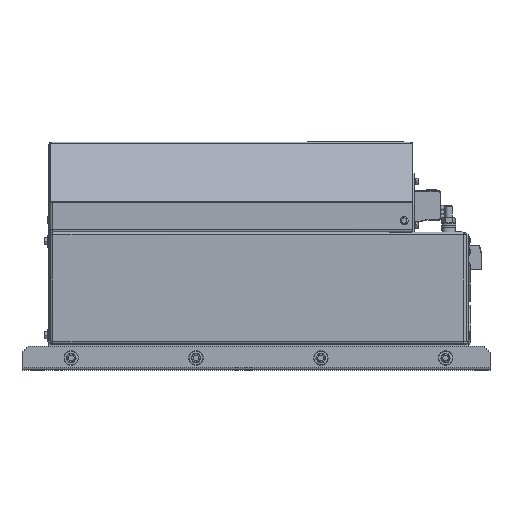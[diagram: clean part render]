
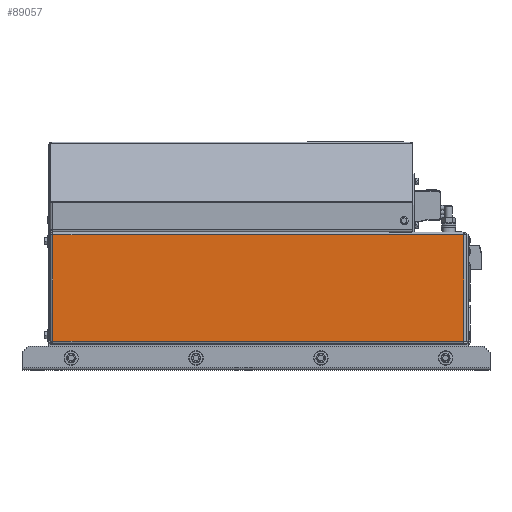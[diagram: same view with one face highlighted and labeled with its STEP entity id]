
A CAD part, left-side view. The second image highlights one B-rep face of the part: STEP entity #89057.
In plain terms, the highlighted planar face has unit normal (-1, 0, 0).
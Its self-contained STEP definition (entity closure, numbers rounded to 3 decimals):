
#1407=PLANE('',#94711);
#5554=LINE('',#139359,#13867);
#5615=LINE('',#139985,#13928);
#5616=LINE('',#139986,#13929);
#5617=LINE('',#139987,#13930);
#13867=VECTOR('',#105402,10.);
#13928=VECTOR('',#105537,10.);
#13929=VECTOR('',#105538,10.);
#13930=VECTOR('',#105539,10.);
#26599=FACE_OUTER_BOUND('',#31653,.T.);
#31653=EDGE_LOOP('',(#62465,#62466,#62467,#62468));
#38571=VERTEX_POINT('',#139345);
#38576=VERTEX_POINT('',#139358);
#38615=VERTEX_POINT('',#139863);
#38634=VERTEX_POINT('',#139984);
#47642=EDGE_CURVE('',#38576,#38571,#5554,.T.);
#47732=EDGE_CURVE('',#38615,#38634,#5615,.T.);
#47733=EDGE_CURVE('',#38615,#38576,#5616,.T.);
#47734=EDGE_CURVE('',#38634,#38571,#5617,.T.);
#62465=ORIENTED_EDGE('',*,*,#47732,.F.);
#62466=ORIENTED_EDGE('',*,*,#47733,.T.);
#62467=ORIENTED_EDGE('',*,*,#47642,.T.);
#62468=ORIENTED_EDGE('',*,*,#47734,.F.);
#89057=ADVANCED_FACE('',(#26599),#1407,.F.);
#94711=AXIS2_PLACEMENT_3D('',#139983,#105535,#105536);
#105402=DIRECTION('',(0.,0.,-1.));
#105535=DIRECTION('center_axis',(1.,0.,0.));
#105536=DIRECTION('ref_axis',(0.,0.,
-1.));
#105537=DIRECTION('',(0.,0.,-1.));
#105538=DIRECTION('',(0.,1.,0.));
#105539=DIRECTION('',(0.,1.,0.));
#139345=CARTESIAN_POINT('',(-100.143,156.38,8.776));
#139358=CARTESIAN_POINT('',(-100.143,156.38,97.523));
#139359=CARTESIAN_POINT('',(-100.143,156.38,46.673));
#139863=CARTESIAN_POINT('',(-100.143,-186.02,97.523));
#139983=CARTESIAN_POINT('Origin',(-100.143,-188.32,7.823));
#139984=CARTESIAN_POINT('',(-100.143,-186.02,8.776));
#139985=CARTESIAN_POINT('',(-100.143,-186.02,85.533));
#139986=CARTESIAN_POINT('',(-100.143,158.68,97.523));
#139987=CARTESIAN_POINT('',(-100.143,-188.32,8.776));
